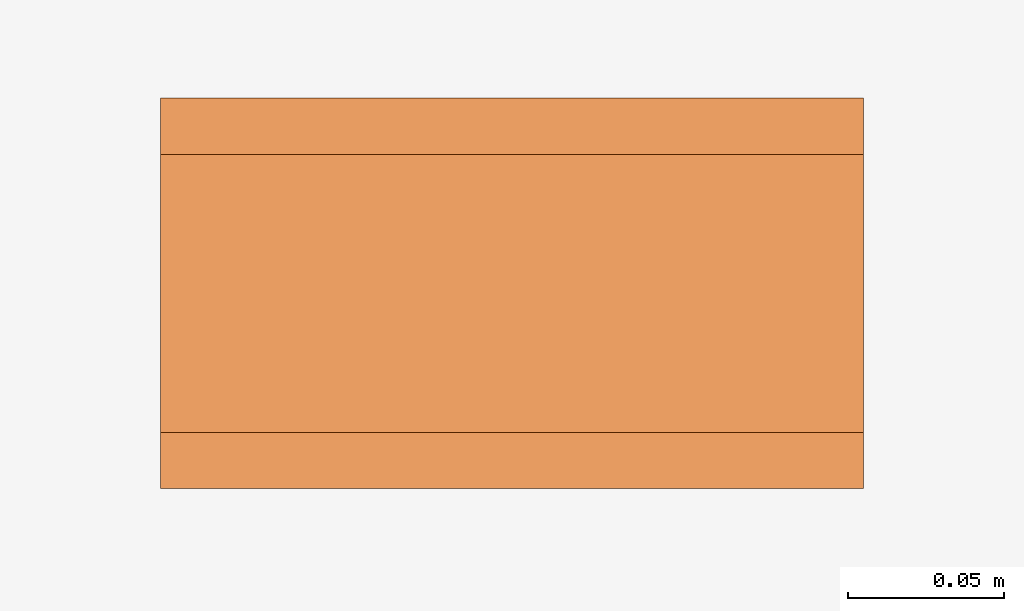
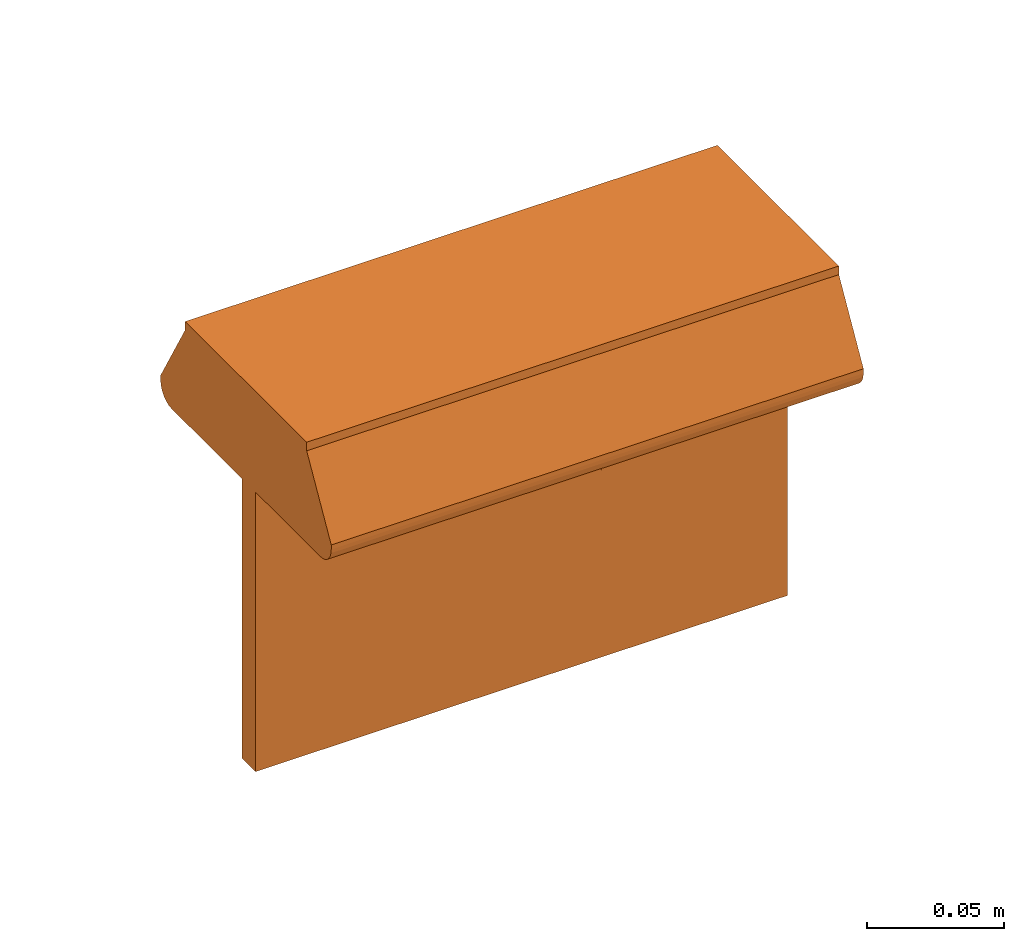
# One storey, part 56 of 197: 1 proxy.
"""IFC2X3 building model written with IfcOpenShell, lengths in metres."""

import ifcopenshell
import ifcopenshell.guid

model = None  # the IFC model being written
_history = None  # IfcOwnerHistory: only IFC2X3 demands one
_inside = {}  # id of a spatial element -> (the spatial element, [elements in it])
_under = {}  # id of a project, library or spatial element -> (it, [spatial elements below it])
_declared = {}  # id of a project -> (the project, [libraries it declares])
_typed = {}  # id of a type object -> (the type object, [elements of that type])
_made_of = {}  # id of a material, layer set ... -> (it, [elements and type objects made of it])


def new_model(schema):
    """Start an empty IFC model of exactly this schema.

    Asked for "IFC4X3", IfcOpenShell would pick the latest addendum, in which some entities
    have other attributes; the version numbers below select the first issue.
    IFC2X3 requires an IfcOwnerHistory on every rooted entity: one is made here for all.
    """
    global model, _history
    if schema == "IFC4X3":
        model = ifcopenshell.file(schema_version=(4, 3, 0, 0))
    else:
        model = ifcopenshell.file(schema=schema)
    _inside.clear()
    _under.clear()
    _declared.clear()
    _typed.clear()
    _made_of.clear()
    _history = None
    if model.schema == "IFC2X3":
        org = make("IfcOrganization", Name="unknown")
        user = make(
            "IfcPersonAndOrganization",
            ThePerson=make("IfcPerson", FamilyName="unknown"),
            TheOrganization=org,
        )
        app = make(
            "IfcApplication",
            ApplicationDeveloper=org,
            Version="unknown",
            ApplicationFullName="unknown",
            ApplicationIdentifier="unknown",
        )
        _history = make(
            "IfcOwnerHistory",
            OwningUser=user,
            OwningApplication=app,
            ChangeAction="ADDED",
            CreationDate=0,
        )
    return model


def make(cls, **values):
    """One entity of the class cls with the attributes given. An attribute that is None is left unset."""
    return model.create_entity(
        cls, **{name: value for name, value in values.items() if value is not None}
    )


def entity(cls, *values):
    """Any entity or typed value of the class cls, its attributes in the order of the schema. None: left unset."""
    e = model.create_entity(cls)
    for i, value in enumerate(values):
        if value is not None:
            e[i] = value
    return e


def rooted(cls, **values):
    """An entity with a GlobalId (a new one), such as an element, a storey or a relation."""
    return make(cls, GlobalId=ifcopenshell.guid.new(), OwnerHistory=_history, **values)


def si_unit(unit_type, name, prefix=None):
    """IfcSIUnit, for example si_unit("LENGTHUNIT", "METRE", prefix="MILLI")."""
    return make("IfcSIUnit", UnitType=unit_type, Prefix=prefix, Name=name)


def converted_unit(unit_type, name, factor, base, dimensions=None, offset=None):
    """IfcConversionBasedUnit, such as the inch: factor (a typed value) times the base unit."""
    return make(
        "IfcConversionBasedUnit"
        if offset is None
        else "IfcConversionBasedUnitWithOffset",
        ConversionOffset=offset,
        Dimensions=None
        if dimensions is None
        else entity("IfcDimensionalExponents", *dimensions),
        UnitType=unit_type,
        Name=name,
        ConversionFactor=make(
            "IfcMeasureWithUnit", ValueComponent=factor, UnitComponent=base
        ),
    )


def assignment(units):
    """IfcUnitAssignment: the units of a project."""
    return None if units is None else make("IfcUnitAssignment", Units=units)


def point(xyz):
    """IfcCartesianPoint."""
    return None if xyz is None else make("IfcCartesianPoint", Coordinates=xyz)


def direction(xyz):
    """IfcDirection."""
    return None if xyz is None else make("IfcDirection", DirectionRatios=xyz)


def frame(location, z_axis=None, x_axis=None):
    """IfcAxis2Placement3D, a coordinate frame: its origin and axes. An axis left out is left unset."""
    return make(
        "IfcAxis2Placement3D",
        Location=point(location),
        Axis=direction(z_axis),
        RefDirection=direction(x_axis),
    )


def frame_2d(location, x_axis=None):
    """IfcAxis2Placement2D, a coordinate frame in the plane: its origin and x axis."""
    return make(
        "IfcAxis2Placement2D", Location=point(location), RefDirection=direction(x_axis)
    )


def origin():
    """The frame at (0, 0, 0) with its axes left unset."""
    return frame((0.0, 0.0, 0.0))


def place(relative_to, where):
    """IfcLocalPlacement: puts the frame where relative to a parent placement (None: the world)."""
    return make(
        "IfcLocalPlacement", PlacementRelTo=relative_to, RelativePlacement=where
    )


def context(
    kind, dimensions, precision=None, world=None, true_north=None, identifier=None
):
    """IfcGeometricRepresentationContext, for example the 3D "Model" context."""
    return make(
        "IfcGeometricRepresentationContext",
        ContextIdentifier=identifier,
        ContextType=kind,
        CoordinateSpaceDimension=dimensions,
        Precision=precision,
        WorldCoordinateSystem=world,
        TrueNorth=true_north,
    )


def subcontext(parent, identifier, kind, view, scale=None):
    """IfcGeometricRepresentationSubContext, for example "Body" below "Model"."""
    return make(
        "IfcGeometricRepresentationSubContext",
        ContextIdentifier=identifier,
        ContextType=kind,
        ParentContext=parent,
        TargetScale=scale,
        TargetView=view,
    )


def project(units=None, contexts=None):
    """IfcProject with its units and contexts."""
    return rooted(
        "IfcProject",
        Name="project",
        RepresentationContexts=contexts,
        UnitsInContext=assignment(units),
    )


def spatial(cls, under=None, at=None, **own):
    """A site, building, storey or space (cls), placed at a placement, below another one or the project."""
    s = rooted(cls, ObjectPlacement=at, **own)
    if under is not None:
        _under.setdefault(under.id(), (under, []))[1].append(s)
    return s


def polyline(points):
    """IfcPolyline through the points."""
    return make("IfcPolyline", Points=[point(p) for p in points])


def circle_curve(where, radius):
    """IfcCircle in the frame where."""
    return make("IfcCircle", Position=where, Radius=radius)


def parameter(value):
    """IfcParameterValue: where a trimmed curve begins or ends, as a parameter of its basis curve."""
    return model.create_entity("IfcParameterValue", value)


def trimmed(basis, trim1, trim2, sense, master):
    """IfcTrimmedCurve: the piece of a basis curve between two trims."""
    return make(
        "IfcTrimmedCurve",
        BasisCurve=basis,
        Trim1=trim1,
        Trim2=trim2,
        SenseAgreement=sense,
        MasterRepresentation=master,
    )


def segment(curve, same_sense, transition):
    """IfcCompositeCurveSegment."""
    return make(
        "IfcCompositeCurveSegment",
        Transition=transition,
        SameSense=same_sense,
        ParentCurve=curve,
    )


def composite_curve(segments, self_intersect=None):
    """IfcCompositeCurve: segments joined end to end."""
    return make("IfcCompositeCurve", Segments=segments, SelfIntersect=self_intersect)


def profile(cls, at=None, kind="AREA", **sizes):
    """A parametric profile (cls). Its sizes go by their IFC names, for example OverallWidth=200.0."""
    return make(cls, ProfileType=kind, Position=at, **sizes)


def circle(**sizes):
    """IfcCircleProfileDef."""
    return profile("IfcCircleProfileDef", **sizes)


def outline(outer, holes=None, kind="AREA"):
    """IfcArbitraryClosedProfileDef: a profile drawn as a closed curve; with holes, ...WithVoids."""
    if holes is None:
        return make("IfcArbitraryClosedProfileDef", ProfileType=kind, OuterCurve=outer)
    return make(
        "IfcArbitraryProfileDefWithVoids",
        ProfileType=kind,
        OuterCurve=outer,
        InnerCurves=holes,
    )


def extrude(swept, where, along, depth):
    """IfcExtrudedAreaSolid: the profile swept, set in the frame where, extruded along a direction by depth."""
    return make(
        "IfcExtrudedAreaSolid",
        SweptArea=swept,
        Position=where,
        ExtrudedDirection=direction(along),
        Depth=depth,
    )


def shape(context_of_items, identifier, shape_type, items):
    """IfcShapeRepresentation: the items that make up one representation, for example the "Body"."""
    return make(
        "IfcShapeRepresentation",
        ContextOfItems=context_of_items,
        RepresentationIdentifier=identifier,
        RepresentationType=shape_type,
        Items=items,
    )


def source(mapping_origin, context_of_items, identifier, shape_type, items):
    """IfcRepresentationMap: a shape defined once, which mapped items show again and again."""
    return make(
        "IfcRepresentationMap",
        MappingOrigin=mapping_origin,
        MappedRepresentation=shape(context_of_items, identifier, shape_type, items),
    )


def transform(
    local_origin,
    x_axis=None,
    y_axis=None,
    z_axis=None,
    scale=None,
    scale2=None,
    scale3=None,
    uniform=True,
):
    """IfcCartesianTransformationOperator3D, or its non-uniform kind. x_axis, y_axis, z_axis: its Axis1, 2, 3."""
    if uniform:
        return make(
            "IfcCartesianTransformationOperator3D",
            Axis1=direction(x_axis),
            Axis2=direction(y_axis),
            LocalOrigin=point(local_origin),
            Scale=scale,
            Axis3=direction(z_axis),
        )
    return make(
        "IfcCartesianTransformationOperator3DnonUniform",
        Axis1=direction(x_axis),
        Axis2=direction(y_axis),
        LocalOrigin=point(local_origin),
        Scale=scale,
        Axis3=direction(z_axis),
        Scale2=scale2,
        Scale3=scale3,
    )


def mapped(mapping_source, mapping_target):
    """IfcMappedItem: shows the shape of a source again, moved by a transform."""
    return make(
        "IfcMappedItem", MappingSource=mapping_source, MappingTarget=mapping_target
    )


def material(Name=None, Category=None):
    """IfcMaterial."""
    return make("IfcMaterial", Name=Name, Category=Category)


def material_list(materials):
    """IfcMaterialList."""
    return make("IfcMaterialList", Materials=materials)


def made_of(thing, what):
    """Note that an element or type object is made of a material, layer set ...; save() writes the relation."""
    if what is not None:
        _made_of.setdefault(what.id(), (what, []))[1].append(thing)
    return thing


def type_object(cls, material=None, **own):
    """A type object (cls), such as IfcWallType, which elements share."""
    return made_of(rooted(cls, **own), material)


def type_shapes(of_type, sources):
    """Give a type object the sources (RepresentationMaps) that its elements show as mapped items."""
    of_type.RepresentationMaps = sources


def element(
    cls,
    number,
    at=None,
    inside=None,
    cuts=None,
    type_object=None,
    material=None,
    context=None,
    identifier="Body",
    shape_type=None,
    held_by="IfcProductDefinitionShape",
    body=None,
    shapes=None,
    **own,
):
    """One element of the class cls, such as IfcWall. Its Tag is "e" and its number.

    at: its placement. inside: the storey or other place that contains it. cuts: it is an
    opening in that element (IfcRelVoidsElement). A single representation is given by context,
    identifier, shape_type and body (its items); several are given by shapes. held_by: the class
    of the entity that holds the representations. save() writes the other relations.
    """
    e = rooted(cls, Tag="e%d" % number, ObjectPlacement=at, **own)
    if body is not None:
        shapes = [shape(context, identifier, shape_type, body)]
    if shapes is not None:
        e.Representation = make(held_by, Representations=shapes)
    if inside is not None:
        _inside.setdefault(inside.id(), (inside, []))[1].append(e)
    if cuts is not None:
        rooted(
            "IfcRelVoidsElement", RelatingBuildingElement=cuts, RelatedOpeningElement=e
        )
    if type_object is not None:
        _typed.setdefault(type_object.id(), (type_object, []))[1].append(e)
    return made_of(e, material)


def aggregate(whole, parts):
    """IfcRelAggregates: a whole, such as a stair, and the parts it consists of."""
    return rooted("IfcRelAggregates", RelatingObject=whole, RelatedObjects=parts)


def save(model, path):
    """Write the relations noted so far, then the file.

    IfcRelAggregates (storeys below a building ...), IfcRelContainedInSpatialStructure (elements
    in a storey), IfcRelDefinesByType, IfcRelAssociatesMaterial and IfcRelDeclares: one each for
    every whole, place, type object, material and project.
    """
    for whole, parts in _under.values():
        aggregate(whole, parts)
    for where, things in _inside.values():
        rooted(
            "IfcRelContainedInSpatialStructure",
            RelatedElements=things,
            RelatingStructure=where,
        )
    for kind, things in _typed.values():
        rooted("IfcRelDefinesByType", RelatedObjects=things, RelatingType=kind)
    for what, things in _made_of.values():
        rooted("IfcRelAssociatesMaterial", RelatedObjects=things, RelatingMaterial=what)
    for by, libraries in _declared.values():
        rooted("IfcRelDeclares", RelatingContext=by, RelatedDefinitions=libraries)
    model.write(path)


model = new_model("IFC2X3")

# Units and contexts
model_context = context("Model", 3, precision=1e-05, world=origin(), true_north=direction((6.123031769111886e-17, 1.0)))
body_context = subcontext(model_context, "Body", "Model", "MODEL_VIEW")
ifc_project = project(units=[si_unit("LENGTHUNIT", "METRE"), converted_unit("PLANEANGLEUNIT", "DEGREE", entity("IfcPlaneAngleMeasure", 0.017453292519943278), si_unit("PLANEANGLEUNIT", "RADIAN"), dimensions=[0, 0, 0, 0, 0, 0, 0]), si_unit("AREAUNIT", "SQUARE_METRE")], contexts=[model_context])

# Site, building, storey
site_placement = place(None, origin())
site = spatial("IfcSite", under=ifc_project, at=site_placement, Name="Default", CompositionType="ELEMENT")
building_placement = place(site_placement, origin())
building = spatial("IfcBuilding", under=site, at=building_placement, CompositionType="ELEMENT")
storey_placement = place(building_placement, origin())
storey = spatial("IfcBuildingStorey", under=building, at=storey_placement, Name="Niveau 0", CompositionType="ELEMENT", Elevation=0.0)

# Proxy
ifc_material_1 = material(Name="BETCE-ENVELOPPE-BLANC")
ifc_material_2 = material(Name="BETCE-ETIQUETTE-VERT 0-193-0")
ifc_material_3 = material(Name="BETCE-VITRE BAES-BLEU")
ifc_material_list = material_list([ifc_material_1, ifc_material_2, ifc_material_3])
building_element_proxy_type = type_object("IfcBuildingElementProxyType", Name="Eclairage de sécurité saillie étanche plafond:BAS", PredefinedType="NOTDEFINED", material=ifc_material_list)
shared_shape = source(origin(), body_context, "Body", "SweptSolid", [
    extrude(outline(polyline([(-0.028959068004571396, -0.03330292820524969), (0.012231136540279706, -0.03330292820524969), (0.029966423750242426, -0.012907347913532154), (0.00310324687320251, -0.01290734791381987), (0.03240502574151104, 0.02078969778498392), (0.016088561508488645, 0.03497792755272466), (-0.013213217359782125, 0.0012808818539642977), (-0.016943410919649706, 0.027883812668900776), (-0.034678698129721, 0.007488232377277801), (-0.028959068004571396, -0.03330292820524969)])), frame((-0.048943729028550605, -0.004999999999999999, -0.10390930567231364), z_axis=(0.0, 1.0, 0.0), x_axis=(-0.7546055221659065, 0.0, 0.6561787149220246)), (0.0, 0.0, 1.0), 0.01),
    extrude(outline(composite_curve([segment(trimmed(circle_curve(frame_2d((-0.022195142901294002, -0.014780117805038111), x_axis=(-0.7432901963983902, 0.6689691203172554)), 0.0006000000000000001), [parameter(89.99999999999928)], [parameter(173.97510158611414)], True, "PARAMETER"), True, "CONTINUOUS"), segment(polyline([(-0.021793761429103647, -0.015226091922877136), (-0.011129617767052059, -0.0056282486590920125)]), True, "CONTINUOUS"), segment(trimmed(circle_curve(frame_2d((-0.0017573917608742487, -0.016041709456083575), x_axis=(-0.7432901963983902, 0.6689691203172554)), 0.014009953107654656), [parameter(330.55607589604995)], [parameter(353.97510158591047)], True, "PARAMETER"), False, "CONTINUOUS"), segment(polyline([(-0.006218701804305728, -0.0027610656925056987), (0.005775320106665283, 0.0017351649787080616)]), True, "CONTINUOUS"), segment(polyline([(0.005775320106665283, 0.0017351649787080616), (-0.00043118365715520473, 0.007321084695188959)]), True, "CONTINUOUS"), segment(polyline([(-0.00043118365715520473, 0.007321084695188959), (-0.011567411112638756, 0.004442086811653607)]), True, "CONTINUOUS"), segment(trimmed(circle_curve(frame_2d((-0.01200551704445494, 0.007126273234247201), x_axis=(-0.7432901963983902, 0.6689691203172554)), 0.0027197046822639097), [parameter(57.327733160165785)], [parameter(141.2574790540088)], True, "PARAMETER"), False, "CONTINUOUS"), segment(trimmed(circle_curve(frame_2d((-0.01200551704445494, 0.007126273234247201), x_axis=(-0.7432901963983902, 0.6689691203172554)), 0.0027197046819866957), [parameter(333.39798722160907)], [parameter(57.32773315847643)], True, "PARAMETER"), False, "CONTINUOUS"), segment(polyline([(-0.012998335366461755, 0.009658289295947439), (-0.00021807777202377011, 0.012998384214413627)]), True, "CONTINUOUS"), segment(trimmed(circle_curve(frame_2d((0.00030725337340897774, 0.00753633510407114), x_axis=(-0.7432901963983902, 0.6689691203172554)), 0.0054872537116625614), [parameter(271.8824185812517)], [parameter(317.48126930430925)], True, "PARAMETER"), False, "CONTINUOUS"), segment(polyline([(0.0038420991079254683, 0.01173333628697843), (0.014901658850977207, 0.0017796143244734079)]), True, "CONTINUOUS"), segment(trimmed(circle_curve(frame_2d((0.006209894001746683, -0.007877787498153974), x_axis=(-0.7432901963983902, 0.6689691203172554)), 0.012992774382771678), [parameter(223.55500193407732)], [parameter(270.00000000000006)], True, "PARAMETER"), False, "CONTINUOUS"), segment(polyline([(0.019197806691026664, -0.007522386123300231), (0.017787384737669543, -0.018915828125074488)]), True, "CONTINUOUS"), segment(polyline([(0.017787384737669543, -0.018915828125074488), (0.02212730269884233, -0.022821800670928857)]), True, "CONTINUOUS"), segment(polyline([(0.02212730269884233, -0.022821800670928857), (0.04439350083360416, 0.0019181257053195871)]), True, "CONTINUOUS"), segment(polyline([(0.04439350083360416, 0.0019181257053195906), (0.006030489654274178, 0.03644524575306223)]), True, "CONTINUOUS"), segment(polyline([(0.006030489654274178, 0.03644524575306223), (-0.032473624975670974, -0.006336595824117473)]), True, "CONTINUOUS"), segment(polyline([(-0.032473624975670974, -0.006336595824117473), (-0.02259652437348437, -0.015226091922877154)]), True, "CONTINUOUS")], self_intersect=False), holes=[composite_curve([segment(trimmed(circle_curve(frame_2d((0.023878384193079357, 0.002672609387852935), x_axis=(-0.7432901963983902, 0.6689691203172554)), 0.005405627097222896), [parameter(89.99999999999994)], [parameter(179.99999999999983)], True, "PARAMETER"), False, "CONTINUOUS"), segment(trimmed(circle_curve(frame_2d((0.02387838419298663, 0.0026726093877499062), x_axis=(-0.7432901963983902, 0.6689691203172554)), 0.005405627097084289), [parameter(359.99999999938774)], [parameter(89.99999999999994)], True, "PARAMETER"), False, "CONTINUOUS"), segment(trimmed(circle_curve(frame_2d((0.023878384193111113, 0.0026726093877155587), x_axis=(-0.7432901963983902, 0.6689691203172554)), 0.005405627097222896), [parameter(269.99999999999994)], [parameter(359.99999999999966)], True, "PARAMETER"), False, "CONTINUOUS"), segment(trimmed(circle_curve(frame_2d((0.023878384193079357, 0.002672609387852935), x_axis=(-0.7432901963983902, 0.6689691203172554)), 0.005405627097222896), [parameter(180.0)], [parameter(269.99999999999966)], True, "PARAMETER"), False, "CONTINUOUS")], self_intersect=False)]), frame((0.04975088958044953, -0.004999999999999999, -0.09879549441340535), z_axis=(0.0, 1.0, 0.0), x_axis=(-0.7432901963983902, 0.0, 0.6689691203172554)), (0.0, 0.0, 1.0), 0.01),
    extrude(outline(composite_curve([segment(polyline([(-0.03194487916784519, -0.010138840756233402), (0.011174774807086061, -0.010138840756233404)]), True, "CONTINUOUS"), segment(polyline([(0.011174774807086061, -0.010138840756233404), (0.011174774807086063, -0.0037977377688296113)]), True, "CONTINUOUS"), segment(trimmed(circle_curve(frame_2d((0.013841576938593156, -0.003797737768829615), x_axis=(0.0, 1.0)), 0.0026668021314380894), [parameter(39.08958312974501)], [parameter(89.99999999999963)], True, "PARAMETER"), False, "CONTINUOUS"), segment(polyline([(0.012160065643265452, -0.001727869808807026), (0.020140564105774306, 0.004432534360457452)]), True, "CONTINUOUS"), segment(trimmed(circle_curve(frame_2d((0.01977914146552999, 0.004900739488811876), x_axis=(0.0, 1.0)), 0.0005914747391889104), [parameter(217.6657084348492)], [parameter(322.3342915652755)], True, "PARAMETER"), True, "CONTINUOUS"), segment(polyline([(0.020140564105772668, 0.005368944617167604), (0.00945064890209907, 0.010543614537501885)]), True, "CONTINUOUS"), segment(trimmed(circle_curve(frame_2d((0.00766281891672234, 0.006850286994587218), x_axis=(0.0, 1.0)), 0.004103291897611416), [parameter(334.1697568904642)], [parameter(29.199181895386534)], True, "PARAMETER"), True, "CONTINUOUS"), segment(polyline([(0.005661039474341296, 0.010432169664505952), (-0.026012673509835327, -0.002486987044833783)]), True, "CONTINUOUS"), segment(polyline([(-0.026012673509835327, -0.002486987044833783), (-0.03194487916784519, -0.0024869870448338)]), True, "CONTINUOUS"), segment(polyline([(-0.03194487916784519, -0.0024869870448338), (-0.03194487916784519, -0.010138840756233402)]), True, "CONTINUOUS")], self_intersect=False)), frame((0.028175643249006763, -0.005, -0.11835202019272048), z_axis=(0.0, 1.0, 0.0), x_axis=(0.0, 0.0, 1.0)), (0.0, 0.0, 1.0), 0.01),
    extrude(outline(composite_curve([segment(polyline([(-0.01863567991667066, -0.010044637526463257), (0.012872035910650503, -0.010044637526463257)]), True, "CONTINUOUS"), segment(trimmed(circle_curve(frame_2d((0.013032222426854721, -0.009454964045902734), x_axis=(0.4235725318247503, 0.9058621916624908)), 0.0006110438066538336), [parameter(189.86253455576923)], [parameter(269.9999999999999)], True, "PARAMETER"), True, "CONTINUOUS"), segment(trimmed(circle_curve(frame_2d((0.013032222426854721, -0.009454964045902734), x_axis=(0.4235725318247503, 0.9058621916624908)), 0.0006110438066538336), [parameter(269.9999999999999)], [parameter(350.1374654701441)], True, "PARAMETER"), True, "CONTINUOUS"), segment(polyline([(0.013382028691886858, -0.008953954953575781), (0.001647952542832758, -0.0007611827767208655)]), True, "CONTINUOUS"), segment(trimmed(circle_curve(frame_2d((0.003547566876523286, 0.0012940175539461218), x_axis=(0.4235725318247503, 0.9058621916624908)), 0.002798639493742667), [parameter(89.99999999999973)], [parameter(162.31324888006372)], True, "PARAMETER"), False, "CONTINUOUS"), segment(polyline([(0.0010123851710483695, 0.0024794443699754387), (0.008443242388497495, 0.018371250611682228)]), True, "CONTINUOUS"), segment(polyline([(0.008443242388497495, 0.018371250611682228), (-0.008273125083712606, 0.026187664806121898)]), True, "CONTINUOUS"), segment(polyline([(-0.008273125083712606, 0.026187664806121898), (-0.0240345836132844, -0.007520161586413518)]), True, "CONTINUOUS"), segment(polyline([(-0.0240345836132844, -0.007520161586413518), (-0.01863567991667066, -0.010044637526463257)]), True, "CONTINUOUS")], self_intersect=False)), frame((0.04943108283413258, -0.004999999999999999, -0.13171021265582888), z_axis=(0.0, 1.0, 0.0), x_axis=(0.42357253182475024, 0.0, 0.9058621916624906)), (0.0, 0.0, 1.0), 0.01),
    extrude(outline(polyline([(-0.05249999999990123, -0.10250000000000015), (0.052499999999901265, -0.10250000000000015), (0.052499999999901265, 0.10250000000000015), (-0.05249999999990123, 0.10250000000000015), (-0.05249999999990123, -0.10250000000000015)]), holes=[composite_curve([segment(polyline([(0.04279689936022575, -0.018036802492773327), (0.04279689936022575, -0.025688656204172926)]), True, "CONTINUOUS"), segment(polyline([(0.04279689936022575, -0.025688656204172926), (0.036864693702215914, -0.025688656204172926)]), True, "CONTINUOUS"), segment(polyline([(0.036864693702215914, -0.025688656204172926), (0.005190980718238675, -0.03860781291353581)]), True, "CONTINUOUS"), segment(trimmed(circle_curve(frame_2d((0.0031892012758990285, -0.03502593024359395), x_axis=(0.0, -1.0)), 0.004103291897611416), [parameter(334.1697568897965)], [parameter(29.199181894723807)], True, "PARAMETER"), False, "CONTINUOUS"), segment(polyline([(0.0014013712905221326, -0.03871925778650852), (-0.009288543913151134, -0.033544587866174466)]), True, "CONTINUOUS"), segment(trimmed(circle_curve(frame_2d((-0.008927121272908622, -0.033076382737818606), x_axis=(0.0, -1.0)), 0.0005914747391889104), [parameter(217.6657084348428)], [parameter(322.33429156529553)], True, "PARAMETER"), False, "CONTINUOUS"), segment(polyline([(-0.009288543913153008, -0.032608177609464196), (-0.0013080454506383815, -0.02644777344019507)]), True, "CONTINUOUS"), segment(trimmed(circle_curve(frame_2d((-0.0029895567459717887, -0.024377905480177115), x_axis=(0.0, -1.0)), 0.0026668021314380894), [parameter(39.089583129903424)], [parameter(90.00000000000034)], True, "PARAMETER"), True, "CONTINUOUS"), segment(polyline([(-0.0003227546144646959, -0.02437790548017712), (-0.0003227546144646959, -0.018036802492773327)]), True, "CONTINUOUS"), segment(polyline([(-0.0003227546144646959, -0.018036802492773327), (0.04279689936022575, -0.018036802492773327)]), True, "CONTINUOUS")], self_intersect=False), composite_curve([segment(polyline([(0.04279689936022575, -0.032438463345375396), (0.04279689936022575, -0.0696492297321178)]), True, "CONTINUOUS"), segment(polyline([(0.04279689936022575, -0.0696492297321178), (0.024343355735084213, -0.0696492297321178)]), True, "CONTINUOUS"), segment(polyline([(0.024343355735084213, -0.0696492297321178), (0.024343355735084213, -0.05210593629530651)]), True, "CONTINUOUS"), segment(trimmed(circle_curve(frame_2d((0.02154471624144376, -0.0521059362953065), x_axis=(0.0, -1.0)), 0.002798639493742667), [parameter(90.0000000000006)], [parameter(162.3132488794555)], True, "PARAMETER"), True, "CONTINUOUS"), segment(polyline([(0.022394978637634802, -0.0494395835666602), (0.008295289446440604, -0.04698829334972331)]), True, "CONTINUOUS"), segment(trimmed(circle_curve(frame_2d((0.008399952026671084, -0.046386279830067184), x_axis=(0.0, -1.0)), 0.0006110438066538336), [parameter(270.0000000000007)], [parameter(350.1374654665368)], True, "PARAMETER"), False, "CONTINUOUS"), segment(trimmed(circle_curve(frame_2d((0.008399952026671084, -0.046386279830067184), x_axis=(0.0, -1.0)), 0.0006110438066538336), [parameter(189.86253455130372)], [parameter(270.0000000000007)], True, "PARAMETER"), False, "CONTINUOUS"), segment(polyline([(0.008295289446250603, -0.045784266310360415), (0.03683693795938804, -0.032438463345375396)]), True, "CONTINUOUS"), segment(polyline([(0.03683693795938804, -0.032438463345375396), (0.04279689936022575, -0.032438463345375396)]), True, "CONTINUOUS")], self_intersect=False), composite_curve([segment(polyline([(0.017729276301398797, -0.056360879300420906), (0.017729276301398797, -0.0696492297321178)]), True, "CONTINUOUS"), segment(polyline([(0.017729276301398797, -0.0696492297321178), (-0.03982811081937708, -0.0696492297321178)]), True, "CONTINUOUS"), segment(polyline([(-0.03982811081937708, -0.0696492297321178), (-0.03982811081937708, -0.018036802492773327)]), True, "CONTINUOUS"), segment(polyline([(-0.03982811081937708, -0.018036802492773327), (-0.0065437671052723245, -0.018036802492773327)]), True, "CONTINUOUS"), segment(polyline([(-0.0065437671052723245, -0.018036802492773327), (-0.006543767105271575, -0.023875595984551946)]), True, "CONTINUOUS"), segment(polyline([(-0.006543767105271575, -0.023875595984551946), (-0.015955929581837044, -0.03044910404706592)]), True, "CONTINUOUS"), segment(trimmed(circle_curve(frame_2d((-0.007003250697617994, -0.03986513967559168), x_axis=(0.0, -1.0)), 0.012992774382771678), [parameter(223.55500193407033)], [parameter(270.00000000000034)], True, "PARAMETER"), True, "CONTINUOUS"), segment(polyline([(-0.019996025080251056, -0.03986513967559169), (-0.019996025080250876, -0.054744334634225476)]), True, "CONTINUOUS"), segment(trimmed(circle_curve(frame_2d((-0.014511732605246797, -0.05456408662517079), x_axis=(0.0, -1.0)), 0.0054872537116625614), [parameter(271.88241858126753)], [parameter(317.48126930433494)], True, "PARAMETER"), True, "CONTINUOUS"), segment(polyline([(-0.018220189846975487, -0.058608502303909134), (-0.00718793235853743, -0.06587352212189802)]), True, "CONTINUOUS"), segment(trimmed(circle_curve(frame_2d((-0.00597007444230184, -0.06344172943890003), x_axis=(0.0, -1.0)), 0.0027197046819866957), [parameter(333.3979872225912)], [parameter(57.32773315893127)], True, "PARAMETER"), True, "CONTINUOUS"), segment(trimmed(circle_curve(frame_2d((-0.005970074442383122, -0.06344172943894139), x_axis=(0.0, -1.0)), 0.0027197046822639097), [parameter(57.32773315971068)], [parameter(141.2574790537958)], True, "PARAMETER"), True, "CONTINUOUS"), segment(polyline([(-0.004268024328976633, -0.061320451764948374), (-0.01385774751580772, -0.054968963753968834)]), True, "CONTINUOUS"), segment(polyline([(-0.01385774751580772, -0.054968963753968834), (-0.01385774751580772, -0.046618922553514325)]), True, "CONTINUOUS"), segment(polyline([(-0.01385774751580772, -0.046618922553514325), (-0.0024921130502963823, -0.052526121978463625)]), True, "CONTINUOUS"), segment(trimmed(circle_curve(frame_2d((0.004394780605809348, -0.0403257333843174), x_axis=(0.0, -1.0)), 0.014009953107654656), [parameter(330.5560758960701)], [parameter(353.9751015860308)], True, "PARAMETER"), True, "CONTINUOUS"), segment(polyline([(0.0029242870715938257, -0.054258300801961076), (0.01719225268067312, -0.0557641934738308)]), True, "CONTINUOUS"), segment(trimmed(circle_curve(frame_2d((0.01712927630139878, -0.0563608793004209), x_axis=(0.0, -1.0)), 0.0006000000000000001), [parameter(89.99999999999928)], [parameter(173.97510158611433)], True, "PARAMETER"), False, "CONTINUOUS")], self_intersect=False), polyline([(0.04054220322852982, 0.048943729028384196), (0.013514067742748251, 0.017861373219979), (-0.013514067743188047, 0.017861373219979), (0.0041129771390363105, 0.038132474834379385), (-0.04054220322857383, 0.038132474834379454), (-0.0405422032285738, 0.05975498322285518), (0.004112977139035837, 0.059754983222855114), (-0.013514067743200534, 0.08002608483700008), (0.013514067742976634, 0.08002608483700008), (0.04054220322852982, 0.048943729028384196)])]), frame((0.0, -0.005, -0.10750000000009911), z_axis=(0.0, 1.0, 0.0), x_axis=(0.0, 0.0, -1.0)), (0.0, 0.0, 1.0), 0.01),
    extrude(circle(Radius=0.005405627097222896, at=frame_2d((2.8869406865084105e-14, 1.3468159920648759e-14), x_axis=(1.0, 0.0))), frame((0.03379021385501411, -0.005, -0.08083506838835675), z_axis=(0.0, 1.0, 0.0), x_axis=(1.0, 0.0, 0.0)), (0.0, 0.0, 1.0), 0.01),
    extrude(outline(polyline([(-0.06250000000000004, -0.11175180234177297), (0.062499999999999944, -0.11175180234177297), (0.06249999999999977, -5.4597314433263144e-05), (0.0625000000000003, 0.11324819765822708), (-0.06249999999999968, 0.11324819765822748), (-0.06250000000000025, -0.0029381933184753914), (-0.06250000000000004, -0.11175180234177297)]), holes=[polyline([(0.052499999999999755, 0.0013023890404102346), (0.05249999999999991, -0.10175180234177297), (-0.05250000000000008, -0.10175180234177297), (-0.05250000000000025, -0.0022597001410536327), (-0.05249999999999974, 0.10324819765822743), (0.05250000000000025, 0.1032481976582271), (0.052499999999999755, 0.0013023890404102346)])]), frame((-0.0007481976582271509, -0.005, -0.10750000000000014), z_axis=(0.0, 1.0, 0.0), x_axis=(0.0, 0.0, 1.0)), (0.0, 0.0, 1.0), 0.01),
    extrude(outline(composite_curve([segment(trimmed(circle_curve(frame_2d((-0.001999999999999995, -0.05449999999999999), x_axis=(1.0, 0.0)), 0.008), [parameter(269.9999999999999)], [parameter(0.0)], True, "PARAMETER"), True, "CONTINUOUS"), segment(polyline([(0.006000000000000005, -0.05449999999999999), (0.006000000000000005, 0.054500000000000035)]), True, "CONTINUOUS"), segment(trimmed(circle_curve(frame_2d((-0.001999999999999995, 0.05450000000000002), x_axis=(1.0, 0.0)), 0.008), [parameter(359.99999999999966)], [parameter(89.99999999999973)], True, "PARAMETER"), True, "CONTINUOUS"), segment(polyline([(-0.0019999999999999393, 0.06250000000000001), (-0.00399999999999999, 0.06250000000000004)]), True, "CONTINUOUS"), segment(polyline([(-0.00399999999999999, 0.06250000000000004), (-0.00399999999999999, -0.0625)]), True, "CONTINUOUS"), segment(polyline([(-0.00399999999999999, -0.0625), (-0.001999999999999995, -0.0625)]), True, "CONTINUOUS")], self_intersect=False)), frame((-0.1125, 0.0019999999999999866, -0.039), z_axis=(1.0, 0.0, 0.0), x_axis=(0.0, 0.0, -1.0)), (0.0, 0.0, 1.0), 0.22499999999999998),
    extrude(outline(polyline([(-0.06250000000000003, -0.02205897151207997), (0.06250000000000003, -0.02205897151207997), (0.044499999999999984, 0.00911794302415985), (0.044499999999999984, 0.012941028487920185), (-0.044499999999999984, 0.012941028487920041), (-0.04449999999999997, 0.009117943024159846), (-0.06250000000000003, -0.02205897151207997)])), frame((-0.11249999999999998, 0.002000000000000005, -0.012941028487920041), z_axis=(1.0, 0.0, 0.0), x_axis=(0.0, 1.0, 0.0)), (0.0, 0.0, 1.0), 0.225),
])
type_shapes(building_element_proxy_type, [shared_shape])
proxy_placement = place(storey_placement, frame((-483.7374728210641, 108.51998673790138, 1.4999999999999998)))
element("IfcBuildingElementProxy", 1, at=proxy_placement, inside=storey, type_object=building_element_proxy_type, material=ifc_material_list, Name="Eclairage de sécurité saillie étanche plafond:BAS", ObjectType="Eclairage de sécurité saillie étanche plafond:BAS", context=body_context, shape_type="MappedRepresentation", body=[
    mapped(shared_shape, transform((0.0, 0.0, 0.0), scale=1.0)),
])

save(model, "model.ifc")
